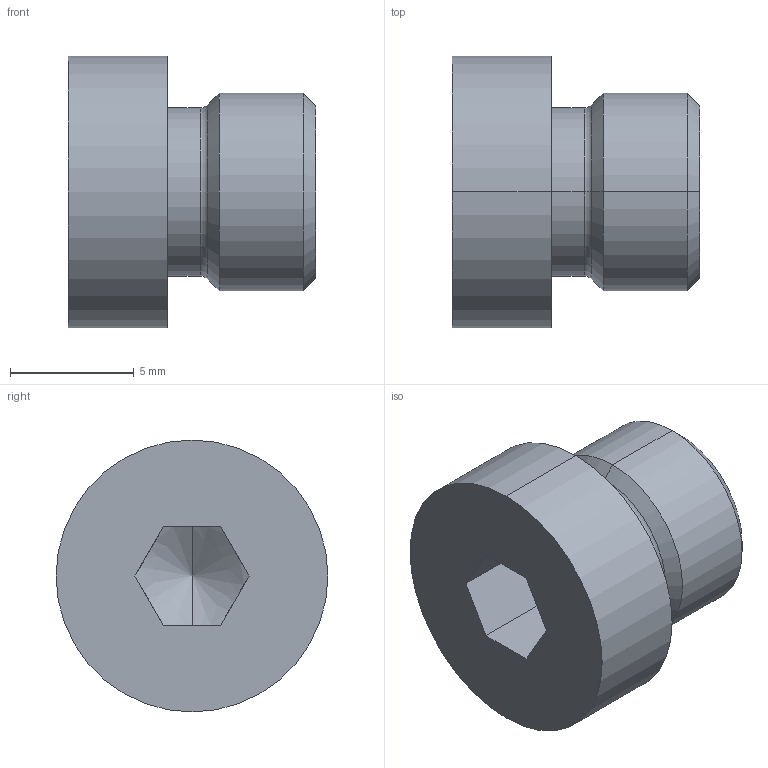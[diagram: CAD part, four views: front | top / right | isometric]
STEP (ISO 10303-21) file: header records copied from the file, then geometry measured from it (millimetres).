
FILE_DESCRIPTION (( 'STEP AP203' ), '1' );
FILE_NAME ('HB0.step', '2014-01-23T07:16:30', ( 'Wandfluh AG' ), ( 'Wandfluh AG' ), 'SwSTEP 2.0', 'SolidWorks 2012', '' );
FILE_SCHEMA (( 'CONFIG_CONTROL_DESIGN' ));
Length unit declared in the file: millimetre
Products named in the file (1): HB0
Bounding box: 10 x 11 x 11 mm (x, y, z)
Volume: 572.8 mm3; surface area: 703.9 mm2
Topology: 2 solids, 2 shells, 34 faces, 74 edges, 45 vertices
Faces by surface type: cylinder 12, plane 12, cone 6, torus 4
Entity records: 1029 total; most frequent: CARTESIAN_POINT 200, DIRECTION 168, ORIENTED_EDGE 144, EDGE_CURVE 72, AXIS2_PLACEMENT_3D 69, VERTEX_POINT 45, EDGE_LOOP 39, ADVANCED_FACE 34
